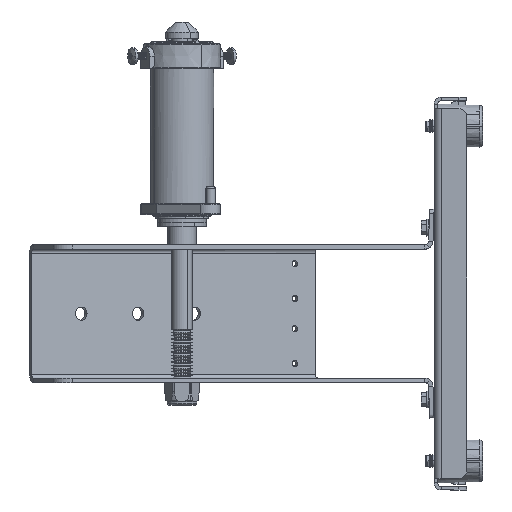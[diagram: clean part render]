
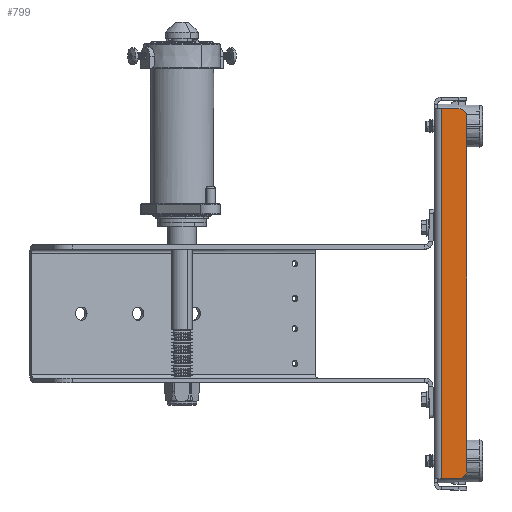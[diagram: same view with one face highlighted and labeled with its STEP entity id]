
A CAD part, left-side view. The second image highlights one B-rep face of the part: STEP entity #799.
In plain terms, the highlighted planar face has unit normal (-1, 0, 0).
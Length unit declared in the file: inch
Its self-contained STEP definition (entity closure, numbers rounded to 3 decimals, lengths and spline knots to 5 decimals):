
#799 = ADVANCED_FACE ( 'NONE', ( #34041 ), #9702, .F. ) ;
#2194 = EDGE_CURVE ( 'NONE', #64297, #41067, #38289, .T. ) ;
#2308 = DIRECTION ( 'NONE',  ( 0., 0., 1. ) ) ;
#3879 = CARTESIAN_POINT ( 'NONE',  ( -12.7375, -0.75, 5.65 ) ) ;
#4761 = CARTESIAN_POINT ( 'NONE',  ( -12.7375, -0.75, 5.4 ) ) ;
#8801 = ORIENTED_EDGE ( 'NONE', *, *, #2194, .T. ) ;
#9702 = PLANE ( 'NONE',  #81363 ) ;
#10741 = CARTESIAN_POINT ( 'NONE',  ( -12.7375, -0.75, -5.4 ) ) ;
#11707 = EDGE_CURVE ( 'NONE', #79819, #17289, #67005, .T. ) ;
#11808 = ORIENTED_EDGE ( 'NONE', *, *, #79415, .T. ) ;
#12882 = DIRECTION ( 'NONE',  ( 0., 1., 0. ) ) ;
#14323 = CARTESIAN_POINT ( 'NONE',  ( -12.7375, -1., -5.4 ) ) ;
#15031 = CIRCLE ( 'NONE', #46021, 0.25 ) ;
#15983 = VECTOR ( 'NONE', #45598, 39.37008 ) ;
#17289 = VERTEX_POINT ( 'NONE', #68463 ) ;
#18741 = DIRECTION ( 'NONE',  ( -1., 0., 0. ) ) ;
#18771 = CARTESIAN_POINT ( 'NONE',  ( -12.7375, -1., 5.4 ) ) ;
#19928 = ORIENTED_EDGE ( 'NONE', *, *, #39842, .F. ) ;
#20530 = DIRECTION ( 'NONE',  ( -1., 0., 0. ) ) ;
#22747 = EDGE_CURVE ( 'NONE', #56345, #43689, #86734, .T. ) ;
#22756 = CARTESIAN_POINT ( 'NONE',  ( -12.7375, 0., -5.65 ) ) ;
#26534 = AXIS2_PLACEMENT_3D ( 'NONE', #10741, #20530, #90027 ) ;
#28499 = CARTESIAN_POINT ( 'NONE',  ( -12.7375, 0., 0. ) ) ;
#32914 = EDGE_CURVE ( 'NONE', #43689, #64297, #15031, .T. ) ;
#34041 = FACE_OUTER_BOUND ( 'NONE', #41352, .T. ) ;
#38111 = VECTOR ( 'NONE', #65805, 39.37008 ) ;
#38289 = LINE ( 'NONE', #48718, #67801 ) ;
#39842 = EDGE_CURVE ( 'NONE', #79819, #41067, #75821, .T. ) ;
#40197 = DIRECTION ( 'NONE',  ( 0., 1., 0. ) ) ;
#41067 = VERTEX_POINT ( 'NONE', #41349 ) ;
#41349 = CARTESIAN_POINT ( 'NONE',  ( -12.7375, -0.2246, 5.65 ) ) ;
#41352 = EDGE_LOOP ( 'NONE', ( #50853, #11808, #79128, #59901, #8801, #19928 ) ) ;
#43689 = VERTEX_POINT ( 'NONE', #18771 ) ;
#45598 = DIRECTION ( 'NONE',  ( 0., 0., 1. ) ) ;
#46021 = AXIS2_PLACEMENT_3D ( 'NONE', #4761, #18741, #40197 ) ;
#48718 = CARTESIAN_POINT ( 'NONE',  ( -12.7375, 0., 5.65 ) ) ;
#50853 = ORIENTED_EDGE ( 'NONE', *, *, #11707, .T. ) ;
#53432 = CARTESIAN_POINT ( 'NONE',  ( -12.7375, -0.2246, 5.65 ) ) ;
#56345 = VERTEX_POINT ( 'NONE', #14323 ) ;
#57063 = DIRECTION ( 'NONE',  ( 0., 1., 0. ) ) ;
#59490 = CARTESIAN_POINT ( 'NONE',  ( -12.7375, -1., 0. ) ) ;
#59901 = ORIENTED_EDGE ( 'NONE', *, *, #32914, .T. ) ;
#64297 = VERTEX_POINT ( 'NONE', #3879 ) ;
#64433 = DIRECTION ( 'NONE',  ( 1., 0., 0. ) ) ;
#65805 = DIRECTION ( 'NONE',  ( 0., -1., 0. ) ) ;
#67005 = LINE ( 'NONE', #22756, #38111 ) ;
#67801 = VECTOR ( 'NONE', #57063, 39.37008 ) ;
#68463 = CARTESIAN_POINT ( 'NONE',  ( -12.7375, -0.75, -5.65 ) ) ;
#75821 = LINE ( 'NONE', #53432, #15983 ) ;
#76499 = CIRCLE ( 'NONE', #26534, 0.25 ) ;
#79128 = ORIENTED_EDGE ( 'NONE', *, *, #22747, .T. ) ;
#79415 = EDGE_CURVE ( 'NONE', #17289, #56345, #76499, .T. ) ;
#79819 = VERTEX_POINT ( 'NONE', #81548 ) ;
#81363 = AXIS2_PLACEMENT_3D ( 'NONE', #28499, #64433, #12882 ) ;
#81548 = CARTESIAN_POINT ( 'NONE',  ( -12.7375, -0.2246, -5.65 ) ) ;
#86564 = VECTOR ( 'NONE', #2308, 39.37008 ) ;
#86734 = LINE ( 'NONE', #59490, #86564 ) ;
#90027 = DIRECTION ( 'NONE',  ( 0., 1., 0. ) ) ;
